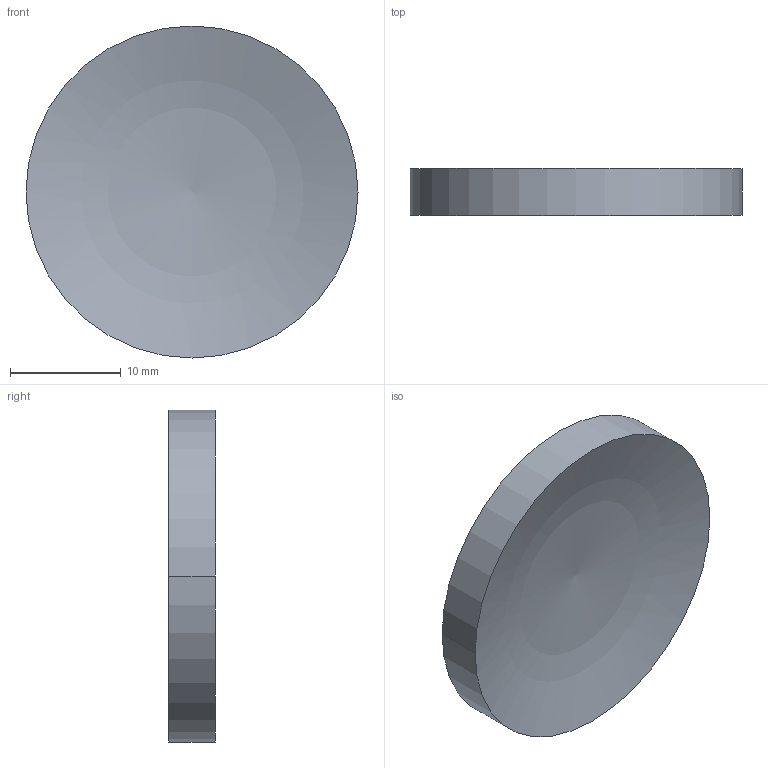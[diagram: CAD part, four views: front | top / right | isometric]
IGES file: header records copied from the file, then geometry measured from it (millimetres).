
Global section: file name: No Iges File Name specified; native system: AutoDesk Inventor R12.0; preprocessor: AutoDesk Inventor Iges Exporter R12.0; author: No Author specified; organization: No Organization specified; date: 20090522.105409; units: millimetre
Bounding box: 30 x 4.21 x 30 mm (x, y, z)
Volume: 2190.8 mm3; surface area: 1826.4 mm2
Topology: 1 solids, 1 shells, 4 faces, 6 edges, 4 vertices
Faces by surface type: cylinder 2, bspline 1, plane 1
